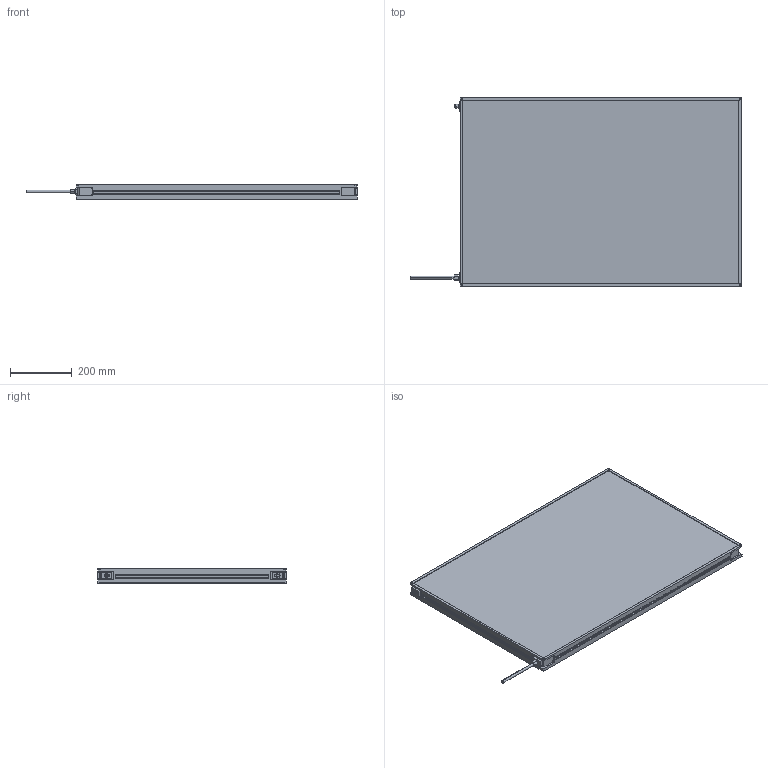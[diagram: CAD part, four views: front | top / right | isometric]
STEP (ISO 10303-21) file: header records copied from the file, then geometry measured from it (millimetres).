
FILE_DESCRIPTION (( 'STEP AP214' ), '1' );
FILE_NAME ('MBACK-xxxx-xxx-M1A2_CLIENT600x900.STEP', '2022-04-01T11:48:03', ( '' ), ( '' ), 'SwSTEP 2.0', 'SolidWorks 2020', '' );
FILE_SCHEMA (( 'AUTOMOTIVE_DESIGN' ));
Length unit declared in the file: millimetre
Products named in the file (1): MBACK-xxxx-xxx-M1A2_CLIENT600x900
Bounding box: 1067.4 x 608 x 45.5 mm (x, y, z)
Volume: 22990685 mm3; surface area: 1311419.1 mm2
Topology: 1 solids, 1 shells, 470 faces, 1210 edges, 804 vertices
Faces by surface type: plane 265, cylinder 117, bspline 80, cone 8
Entity records: 18046 total; most frequent: CARTESIAN_POINT 6837, ORIENTED_EDGE 2420, DIRECTION 2082, EDGE_CURVE 1210, VERTEX_POINT 804, VECTOR 800, LINE 800, AXIS2_PLACEMENT_3D 641
